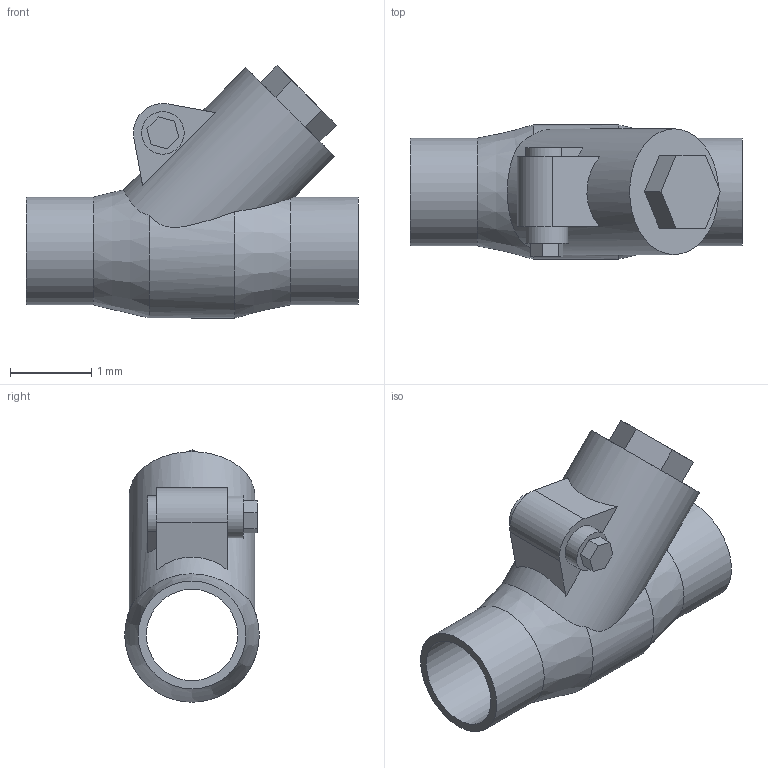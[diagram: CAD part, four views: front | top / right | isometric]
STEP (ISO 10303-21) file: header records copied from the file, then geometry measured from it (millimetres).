
FILE_DESCRIPTION(('Open CASCADE Model'),'2;1');
FILE_NAME('Open CASCADE Shape Model','2022-08-11T10:40:02',('Author'),( 'Open CASCADE'),'Open CASCADE STEP processor 7.3','Open CASCADE 7.3' ,'Unknown');
FILE_SCHEMA(('AUTOMOTIVE_DESIGN { 1 0 10303 214 1 1 1 1 }'));
Length unit declared in the file: millimetre
Products named in the file (1): Open CASCADE STEP translator 7.3 1
Bounding box: 4.09 x 1.65 x 3.11 mm (x, y, z)
Volume: 5.8 mm3; surface area: 45.4 mm2
Topology: 1 solids, 1 shells, 40 faces, 96 edges, 64 vertices
Faces by surface type: plane 28, cylinder 10, cone 2
Full cylindrical faces by diameter (mm): 0.524 x1, 1.125 x2, 1.239 x1, 1.328 x2, 1.55 x1
Entity records: 3179 total; most frequent: CARTESIAN_POINT 1246, DIRECTION 350, LINE 210, VECTOR 210, ORIENTED_EDGE 192, PCURVE 192, DEFINITIONAL_REPRESENTATION 192, EDGE_CURVE 96
